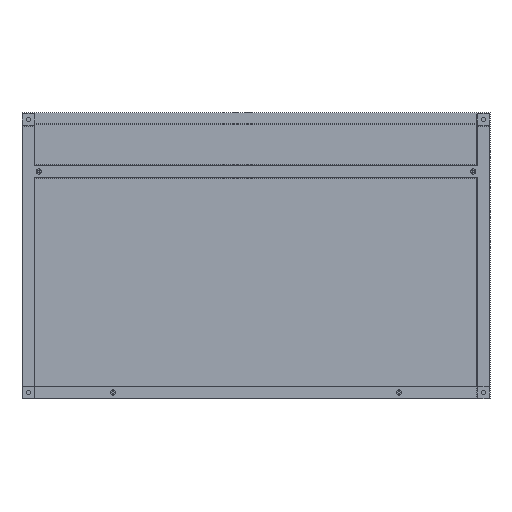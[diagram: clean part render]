
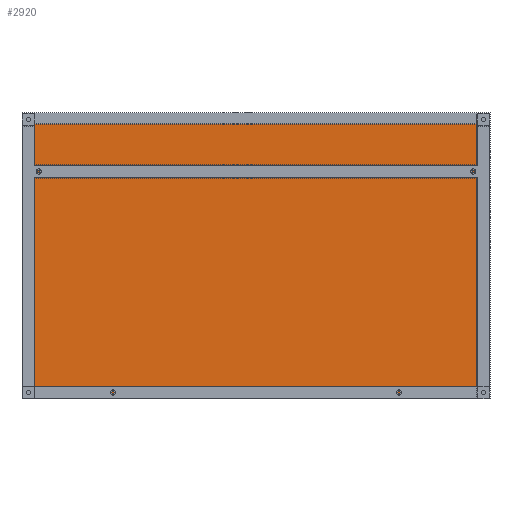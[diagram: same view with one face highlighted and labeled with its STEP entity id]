
A CAD part, front view. The second image highlights one B-rep face of the part: STEP entity #2920.
In plain terms, the highlighted planar face has unit normal (0, -1, 0) as drawn and (0, 0, -1) by its records, which use the part's own axes.
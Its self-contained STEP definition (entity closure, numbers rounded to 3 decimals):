
#249 = CARTESIAN_POINT ( 'NONE',  ( 875., 275., 0. ) ) ;
#337 = CARTESIAN_POINT ( 'NONE',  ( 25., 275., 0. ) ) ;
#418 = EDGE_CURVE ( 'NONE', #5511, #893, #5878, .T. ) ;
#427 = DIRECTION ( 'NONE',  ( -1., 0., 0. ) ) ;
#893 = VERTEX_POINT ( 'NONE', #4252 ) ;
#1042 = CARTESIAN_POINT ( 'NONE',  ( 25., -253., 0. ) ) ;
#1092 = EDGE_CURVE ( 'NONE', #6302, #5511, #2844, .T. ) ;
#1312 = CARTESIAN_POINT ( 'NONE',  ( 25., -253., 0. ) ) ;
#1518 = CARTESIAN_POINT ( 'NONE',  ( 25., 275., 0. ) ) ;
#1578 = PLANE ( 'NONE',  #2115 ) ;
#1747 = ORIENTED_EDGE ( 'NONE', *, *, #1092, .F. ) ;
#1937 = DIRECTION ( 'NONE',  ( 0., 1., 0. ) ) ;
#2115 = AXIS2_PLACEMENT_3D ( 'NONE', #2479, #2548, #427 ) ;
#2479 = CARTESIAN_POINT ( 'NONE',  ( 0., 0., 0. ) ) ;
#2548 = DIRECTION ( 'NONE',  ( 0., 0., -1. ) ) ;
#2844 = LINE ( 'NONE', #5904, #3601 ) ;
#2866 = LINE ( 'NONE', #4955, #3413 ) ;
#2920 = ADVANCED_FACE ( 'NONE', ( #6008 ), #1578, .T. ) ;
#2996 = ORIENTED_EDGE ( 'NONE', *, *, #4036, .F. ) ;
#3123 = LINE ( 'NONE', #1518, #3711 ) ;
#3352 = DIRECTION ( 'NONE',  ( 1., 0., 0. ) ) ;
#3413 = VECTOR ( 'NONE', #1937, 1000. ) ;
#3601 = VECTOR ( 'NONE', #5367, 1000. ) ;
#3711 = VECTOR ( 'NONE', #5576, 1000. ) ;
#4036 = EDGE_CURVE ( 'NONE', #893, #4607, #2866, .T. ) ;
#4252 = CARTESIAN_POINT ( 'NONE',  ( 875., -253., 0. ) ) ;
#4312 = ORIENTED_EDGE ( 'NONE', *, *, #418, .F. ) ;
#4607 = VERTEX_POINT ( 'NONE', #249 ) ;
#4845 = EDGE_LOOP ( 'NONE', ( #1747, #6453, #2996, #4312 ) ) ;
#4955 = CARTESIAN_POINT ( 'NONE',  ( 875., -253., 0. ) ) ;
#5185 = VECTOR ( 'NONE', #3352, 1000. ) ;
#5367 = DIRECTION ( 'NONE',  ( 0., -1., 0. ) ) ;
#5511 = VERTEX_POINT ( 'NONE', #1042 ) ;
#5576 = DIRECTION ( 'NONE',  ( -1., 0., 0. ) ) ;
#5585 = EDGE_CURVE ( 'NONE', #4607, #6302, #3123, .T. ) ;
#5878 = LINE ( 'NONE', #1312, #5185 ) ;
#5904 = CARTESIAN_POINT ( 'NONE',  ( 25., -253., 0. ) ) ;
#6008 = FACE_OUTER_BOUND ( 'NONE', #4845, .T. ) ;
#6302 = VERTEX_POINT ( 'NONE', #337 ) ;
#6453 = ORIENTED_EDGE ( 'NONE', *, *, #5585, .F. ) ;
